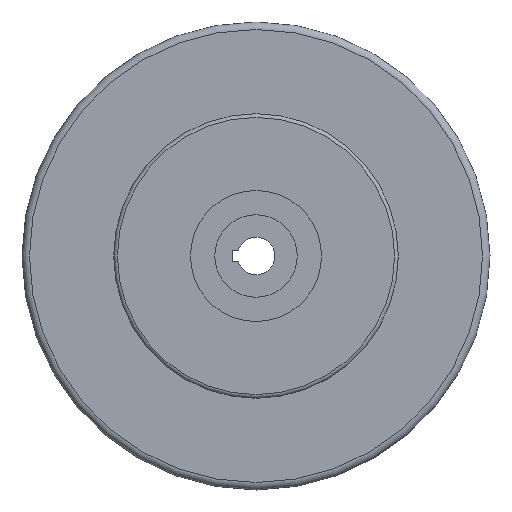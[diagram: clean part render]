
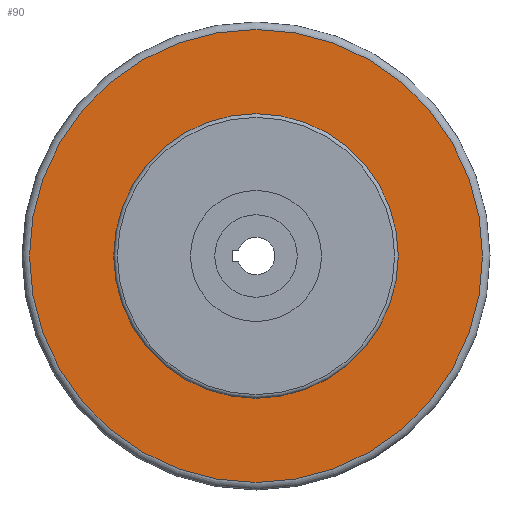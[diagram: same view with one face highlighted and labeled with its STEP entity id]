
A CAD part, left-side view. The second image highlights one B-rep face of the part: STEP entity #90.
In plain terms, the highlighted planar face has unit normal (-1, 0, 0).
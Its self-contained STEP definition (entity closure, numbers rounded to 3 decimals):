
#90 = ADVANCED_FACE( '', ( #148, #149 ), #150, .T. );
#148 = FACE_BOUND( '', #230, .T. );
#149 = FACE_OUTER_BOUND( '', #231, .T. );
#150 = PLANE( '', #232 );
#230 = EDGE_LOOP( '', ( #359 ) );
#231 = EDGE_LOOP( '', ( #360 ) );
#232 = AXIS2_PLACEMENT_3D( '', #361, #362, #363 );
#359 = ORIENTED_EDGE( '', *, *, #456, .T. );
#360 = ORIENTED_EDGE( '', *, *, #455, .F. );
#361 = CARTESIAN_POINT( '', ( 36., 60.501, 0. ) );
#362 = DIRECTION( '', ( -1., 0., 0. ) );
#363 = DIRECTION( '', ( 0., 0., 1. ) );
#455 = EDGE_CURVE( '', #514, #514, #515, .T. );
#456 = EDGE_CURVE( '', #516, #516, #517, .T. );
#514 = VERTEX_POINT( '', #677 );
#515 = CIRCLE( '', #678, 60.501 );
#516 = VERTEX_POINT( '', #679 );
#517 = CIRCLE( '', #680, 38. );
#677 = CARTESIAN_POINT( '', ( 36., 0., -60.501 ) );
#678 = AXIS2_PLACEMENT_3D( '', #753, #754, #755 );
#679 = CARTESIAN_POINT( '', ( 36., 0., -38. ) );
#680 = AXIS2_PLACEMENT_3D( '', #756, #757, #758 );
#753 = CARTESIAN_POINT( '', ( 36., 0., 0. ) );
#754 = DIRECTION( '', ( 1., 0., 0. ) );
#755 = DIRECTION( '', ( 0., 0., -1. ) );
#756 = CARTESIAN_POINT( '', ( 36., 0., 0. ) );
#757 = DIRECTION( '', ( 1., 0., 0. ) );
#758 = DIRECTION( '', ( 0., 0., -1. ) );
